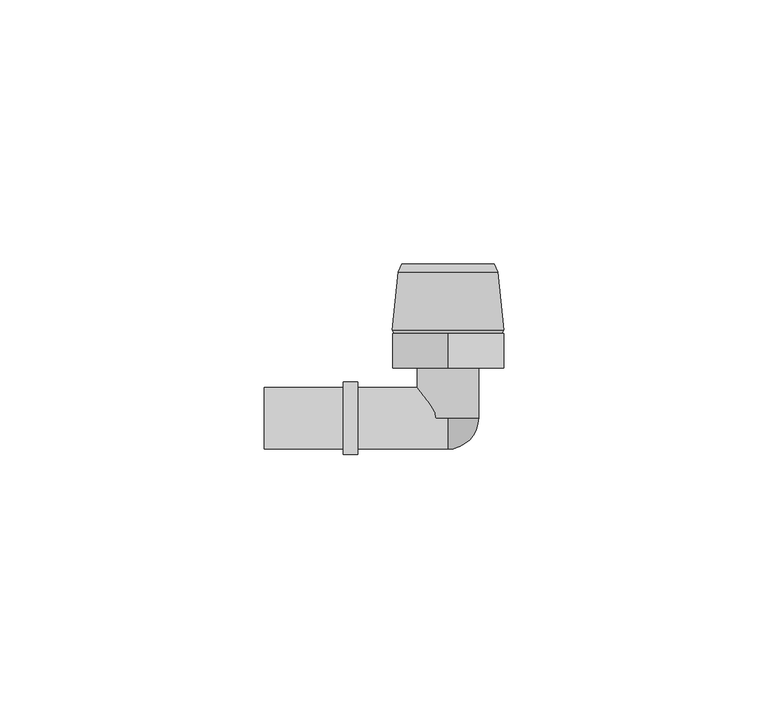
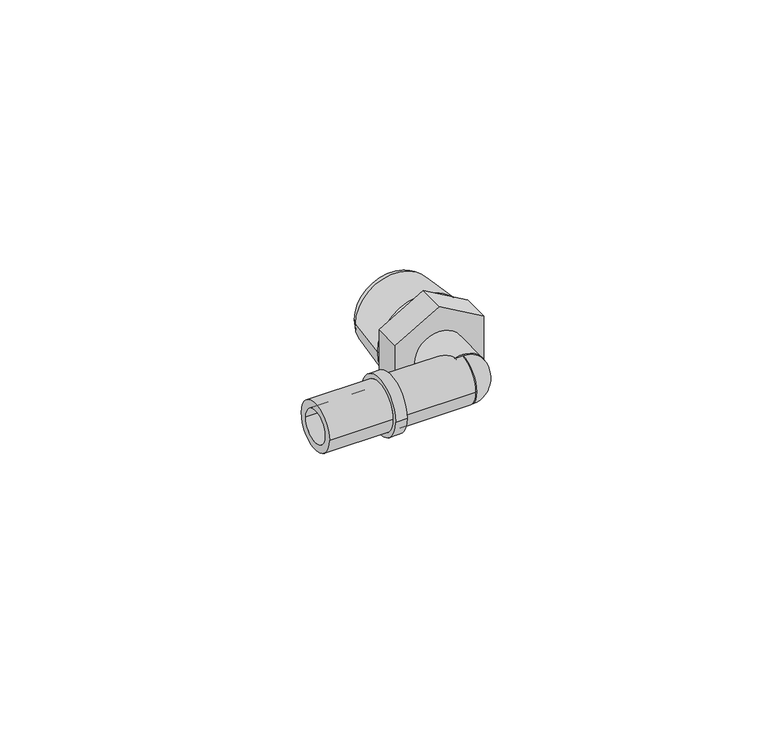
"""IFC4 building model written with IfcOpenShell, lengths in millimetres: pipe fitting geometry, FASTLOC_Elbow with male thread LX : FSL A internal PL."""

from ifc_helpers import new_model, si_unit, point, frame, origin, origin_2d, place, context, project, spatial, polyline, circle_curve, ellipse_curve, trimmed, segment, composite_curve, outline, extrude, source, transform, mapped, element, save
from ifc_brep_helpers import plane_surface, cylinder_surface, revolved_surface, advanced_brep


def pipe_fitting_13315931(model_context):
    return source(origin(), model_context, "Body", "SolidModel", [
        extrude(outline(composite_curve([segment(trimmed(circle_curve(origin_2d(), 5.8), [point((0.0, -5.8))], [point((0.0, 5.8))], False, "CARTESIAN"), True, "CONTINUOUS"), segment(trimmed(circle_curve(origin_2d(), 5.8), [point((0.0, 5.8))], [point((0.0, -5.8))], False, "CARTESIAN"), True, "CONTINUOUS")], self_intersect=False), holes=[composite_curve([segment(trimmed(circle_curve(origin_2d(), 3.95), [point((0.0, -3.95))], [point((0.0, 3.95))], True, "CARTESIAN"), True, "CONTINUOUS"), segment(trimmed(circle_curve(origin_2d(), 3.95), [point((0.0, 3.95))], [point((0.0, -3.95))], True, "CARTESIAN"), True, "CONTINUOUS")], self_intersect=False)]), frame((0.0, 0.0, 0.0), z_axis=(0.0, 1.0, 0.0), x_axis=(0.0, 0.0, 1.0)), (0.0, 0.0, 1.0), 9.5),
        extrude(outline(polyline([(-6.0621778, 10.5), (6.0621778, 10.5), (12.1243557, 0.0), (6.0621778, -10.5), (-6.0621778, -10.5), (-12.1243557, 0.0), (-6.0621778, 10.5)])), frame((0.0, 9.5, 0.0), z_axis=(0.0, 1.0, 0.0), x_axis=(0.0, 0.0, 1.0)), (0.0, 0.0, 1.0), 6.5),
        advanced_brep(
        [(0.0, -5.8, 0.0), (0.0, 0.0, 5.8), (0.0, 0.0, 3.75), (0.0, -3.75, 0.0), (0.0, 0.0, -3.75), (0.0, 0.0, -5.8)],
        [
            (0, 1, circle_curve(frame((0.0, 0.0, 0.0), z_axis=(-1.0, 0.0, 0.0), x_axis=(0.0, 0.0, 1.0)), 5.8)),
            (1, 2),
            (2, 3, circle_curve(frame((0.0, 0.0, 0.0), z_axis=(1.0, 0.0, 0.0), x_axis=(0.0, 0.0, 1.0)), 3.75)),
            (3, 0),
            (3, 4, circle_curve(frame((0.0, 0.0, 0.0), z_axis=(1.0, 0.0, 0.0), x_axis=(0.0, 0.0, -1.0)), 3.75)),
            (4, 5),
            (5, 0, circle_curve(frame((0.0, 0.0, 0.0), z_axis=(-1.0, 0.0, 0.0), x_axis=(0.0, 0.0, -1.0)), 5.8)),
            (5, 1, circle_curve(frame((0.0, 0.0, 0.0), z_axis=(0.0, -1.0, 0.0), x_axis=(0.0, 0.0, 1.0)), 5.8)),
            (4, 2, circle_curve(frame((0.0, 0.0, 0.0), z_axis=(0.0, -1.0, 0.0), x_axis=(0.0, 0.0, 1.0)), 3.75)),
        ],
        [
            plane_surface(frame((0.0, 0.0, 0.0), z_axis=(-1.0, 0.0, 0.0), x_axis=(0.0, 0.0, 1.0))),
            plane_surface(frame((0.0, 0.0, 0.0), z_axis=(-1.0, 0.0, 0.0), x_axis=(0.0, 0.0, -1.0))),
            revolved_surface(trimmed(ellipse_curve(frame((0.0, 0.0, 0.0), z_axis=(-1.0, 0.0, 0.0), x_axis=(0.0, 0.0, 1.0)), 5.8, 5.8), [point((0.0, -5.8, 0.0))], [point((0.0, 0.0, 5.8))], True, "CARTESIAN"), (0.0, 0.0, 0.0), (0.0, 1.0, 0.0)),
            plane_surface(frame((0.0, 0.0, 0.0), z_axis=(0.0, 1.0, 0.0), x_axis=(0.0, 0.0, 1.0))),
            revolved_surface(trimmed(ellipse_curve(frame((0.0, 0.0, 0.0), z_axis=(1.0, 0.0, 0.0), x_axis=(0.0, 0.0, 1.0)), 3.75, 3.75), [point((0.0, 0.0, 3.75))], [point((0.0, -3.75, 0.0))], True, "CARTESIAN"), (0.0, 0.0, 0.0), (0.0, 1.0, 0.0)),
        ],
        [
            (0, [[1, 2, 3, 4]]),
            (1, [[5, 6, 7, -4]]),
            (2, [[8, -1, -7]]),
            (3, [[9, -2, -8, -6]]),
            (4, [[-3, -9, -5]]),
        ],
    ),
        advanced_brep(
        [(9.4, 27.7000007, 0.0), (-9.4, 27.7000007, 0.0), (-8.75, 29.2, 0.0), (8.75, 29.2, 0.0), (10.55, 16.7406902, 0.0), (-10.55, 16.7406902, 0.0), (10.2, 16.0, 0.0), (-10.2, 16.0, 0.0), (7.0, 17.1032803, 0.0), (-7.0, 17.1032803, 0.0), (-5.8967197, 16.0, 0.0), (5.8967197, 16.0, 0.0), (7.0, 29.2, 0.0), (-7.0, 29.2, 0.0)],
        [
            (0, 1, circle_curve(frame((0.0, 27.7000007, 0.0), z_axis=(0.0, 1.0, 0.0), x_axis=(-1.0, 0.0, 0.0)), 9.4)),
            (1, 2),
            (2, 3, circle_curve(frame((0.0, 29.2, 0.0), z_axis=(0.0, -1.0, 0.0), x_axis=(-1.0, 0.0, 0.0)), 8.75)),
            (3, 0),
            (4, 5, circle_curve(frame((0.0, 16.7406902, 0.0), z_axis=(0.0, 1.0, 0.0), x_axis=(-1.0, 0.0, 0.0)), 10.55)),
            (5, 1),
            (0, 4),
            (6, 7, circle_curve(frame((0.0, 16.0, 0.0), z_axis=(0.0, 1.0, 0.0), x_axis=(-1.0, 0.0, 0.0)), 10.2)),
            (7, 5),
            (4, 6),
            (8, 9, circle_curve(frame((0.0, 17.1032803, 0.0), z_axis=(0.0, 1.0, 0.0), x_axis=(-1.0, 0.0, 0.0)), 7.0)),
            (9, 10),
            (10, 11, circle_curve(frame((0.0, 16.0, 0.0), z_axis=(0.0, -1.0, 0.0), x_axis=(-1.0, 0.0, 0.0)), 5.8967197)),
            (11, 8),
            (12, 13, circle_curve(frame((0.0, 29.2, 0.0), z_axis=(0.0, 1.0, 0.0), x_axis=(-1.0, 0.0, 0.0)), 7.0)),
            (13, 9),
            (8, 12),
            (2, 3, circle_curve(frame((0.0, 29.2, 0.0), z_axis=(0.0, 1.0, 0.0), x_axis=(1.0, 0.0, 0.0)), 8.75)),
            (12, 13, circle_curve(frame((0.0, 29.2, 0.0), z_axis=(0.0, -1.0, 0.0), x_axis=(1.0, 0.0, 0.0)), 7.0)),
            (1, 0, circle_curve(frame((0.0, 27.7000007, 0.0), z_axis=(0.0, 1.0, 0.0), x_axis=(1.0, 0.0, 0.0)), 9.4)),
            (5, 4, circle_curve(frame((0.0, 16.7406902, 0.0), z_axis=(0.0, 1.0, 0.0), x_axis=(1.0, 0.0, 0.0)), 10.55)),
            (7, 6, circle_curve(frame((0.0, 16.0, 0.0), z_axis=(0.0, 1.0, 0.0), x_axis=(1.0, 0.0, 0.0)), 10.2)),
            (10, 11, circle_curve(frame((0.0, 16.0, 0.0), z_axis=(0.0, 1.0, 0.0), x_axis=(1.0, 0.0, 0.0)), 5.8967197)),
            (9, 8, circle_curve(frame((0.0, 17.1032803, 0.0), z_axis=(0.0, 1.0, 0.0), x_axis=(1.0, 0.0, 0.0)), 7.0)),
        ],
        [
            revolved_surface(polyline([(-8.75, 29.2, 0.0), (-9.4, 27.7000007, 0.0)]), (0.0, 9.5, 0.0), (0.0, -1.0, 0.0)),
            revolved_surface(polyline([(-9.4, 27.7000007, 0.0), (-10.55, 16.7406902, 0.0)]), (0.0, 9.5, 0.0), (0.0, -1.0, 0.0)),
            revolved_surface(polyline([(-10.55, 16.7406902, 0.0), (-10.2, 16.0, 0.0)]), (0.0, 9.5, 0.0), (0.0, -1.0, 0.0)),
            revolved_surface(polyline([(-5.8967197, 16.0, 0.0), (-7.0, 17.1032803, 0.0)]), (0.0, 9.5, 0.0), (0.0, -1.0, 0.0)),
            revolved_surface(polyline([(-7.0, 17.1032803, 0.0), (-7.0, 29.2, 0.0)]), (0.0, 9.5, 0.0), (0.0, -1.0, 0.0)),
            plane_surface(frame((0.0, 29.2, 0.0), z_axis=(0.0, 1.0, 0.0), x_axis=(1.0, 0.0, 0.0))),
            revolved_surface(polyline([(8.75, 29.2, 0.0), (9.4, 27.7000007, 0.0)]), (0.0, 9.5, 0.0), (0.0, -1.0, 0.0)),
            revolved_surface(polyline([(9.4, 27.7000007, 0.0), (10.55, 16.7406902, 0.0)]), (0.0, 9.5, 0.0), (0.0, -1.0, 0.0)),
            revolved_surface(polyline([(10.55, 16.7406902, 0.0), (10.2, 16.0, 0.0)]), (0.0, 9.5, 0.0), (0.0, -1.0, 0.0)),
            plane_surface(frame((0.0, 16.0, 0.0), z_axis=(0.0, -1.0, 0.0), x_axis=(1.0, 0.0, 0.0))),
            revolved_surface(polyline([(5.8967197, 16.0, 0.0), (7.0, 17.1032803, 0.0)]), (0.0, 9.5, 0.0), (0.0, -1.0, 0.0)),
            revolved_surface(polyline([(7.0, 17.1032803, 0.0), (7.0, 29.2, 0.0)]), (0.0, 9.5, 0.0), (0.0, -1.0, 0.0)),
        ],
        [
            (0, [[1, 2, 3, 4]]),
            (1, [[5, 6, -1, 7]]),
            (2, [[8, 9, -5, 10]]),
            (3, [[11, 12, 13, 14]]),
            (4, [[15, 16, -11, 17]]),
            (5, [[18, -3], [19, -15]]),
            (6, [[20, -4, -18, -2]]),
            (7, [[21, -7, -20, -6]]),
            (8, [[22, -10, -21, -9]]),
            (9, [[-22, -8], [23, -13]]),
            (10, [[24, -14, -23, -12]]),
            (11, [[-19, -17, -24, -16]]),
        ],
    ),
        advanced_brep(
        [(-19.8, 5.8, 0.0), (-19.8, -5.8, 0.0), (-34.8, -5.8, 0.0), (-34.8, 5.8, 0.0), (-17.1, 6.9, 0.0), (-17.1, -6.9, 0.0), (-19.8, -6.9, 0.0), (-19.8, 6.9, 0.0), (0.0, 5.8, 0.0), (0.0, -5.8, 0.0), (-17.1, -5.8, 0.0), (-17.1, 5.8, 0.0), (-34.8, 3.95, 0.0), (-34.8, -3.95, 0.0), (0.0, -3.95, 0.0), (0.0, 3.95, 0.0)],
        [
            (0, 1, circle_curve(frame((-19.8, 0.0, 0.0), z_axis=(-1.0, 0.0, 0.0), x_axis=(0.0, -1.0, 0.0)), 5.8)),
            (1, 2),
            (2, 3, circle_curve(frame((-34.8, 0.0, 0.0), z_axis=(1.0, 0.0, 0.0), x_axis=(0.0, -1.0, 0.0)), 5.8)),
            (3, 0),
            (4, 5, circle_curve(frame((-17.1, 0.0, 0.0), z_axis=(-1.0, 0.0, 0.0), x_axis=(0.0, -1.0, 0.0)), 6.9)),
            (5, 6),
            (6, 7, circle_curve(frame((-19.8, 0.0, 0.0), z_axis=(1.0, 0.0, 0.0), x_axis=(0.0, -1.0, 0.0)), 6.9)),
            (7, 4),
            (8, 9, circle_curve(frame((0.0, 0.0, 0.0), z_axis=(-1.0, 0.0, 0.0), x_axis=(0.0, -1.0, 0.0)), 5.8)),
            (9, 10),
            (10, 11, circle_curve(frame((-17.1, 0.0, 0.0), z_axis=(1.0, 0.0, 0.0), x_axis=(0.0, -1.0, 0.0)), 5.8)),
            (11, 8),
            (12, 13, circle_curve(frame((-34.8, 0.0, 0.0), z_axis=(-1.0, 0.0, 0.0), x_axis=(0.0, -1.0, 0.0)), 3.95)),
            (13, 14),
            (14, 15, circle_curve(frame((0.0, 0.0, 0.0), z_axis=(1.0, 0.0, 0.0), x_axis=(0.0, -1.0, 0.0)), 3.95)),
            (15, 12),
            (2, 3, circle_curve(frame((-34.8, 0.0, 0.0), z_axis=(-1.0, 0.0, 0.0), x_axis=(0.0, 1.0, 0.0)), 5.8)),
            (12, 13, circle_curve(frame((-34.8, 0.0, 0.0), z_axis=(1.0, 0.0, 0.0), x_axis=(0.0, 1.0, 0.0)), 3.95)),
            (1, 0, circle_curve(frame((-19.8, 0.0, 0.0), z_axis=(-1.0, 0.0, 0.0), x_axis=(0.0, 1.0, 0.0)), 5.8)),
            (6, 7, circle_curve(frame((-19.8, 0.0, 0.0), z_axis=(-1.0, 0.0, 0.0), x_axis=(0.0, 1.0, 0.0)), 6.9)),
            (5, 4, circle_curve(frame((-17.1, 0.0, 0.0), z_axis=(-1.0, 0.0, 0.0), x_axis=(0.0, 1.0, 0.0)), 6.9)),
            (10, 11, circle_curve(frame((-17.1, 0.0, 0.0), z_axis=(-1.0, 0.0, 0.0), x_axis=(0.0, 1.0, 0.0)), 5.8)),
            (9, 8, circle_curve(frame((0.0, 0.0, 0.0), z_axis=(-1.0, 0.0, 0.0), x_axis=(0.0, 1.0, 0.0)), 5.8)),
            (14, 15, circle_curve(frame((0.0, 0.0, 0.0), z_axis=(-1.0, 0.0, 0.0), x_axis=(0.0, 1.0, 0.0)), 3.95)),
        ],
        [
            cylinder_surface(frame((0.0, 0.0, 0.0), z_axis=(1.0, 0.0, 0.0), x_axis=(0.0, -1.0, 0.0)), 5.8),
            cylinder_surface(frame((0.0, 0.0, 0.0), z_axis=(1.0, 0.0, 0.0), x_axis=(0.0, -1.0, 0.0)), 6.9),
            revolved_surface(polyline([(0.0, -3.95, 0.0), (-34.8, -3.95, 0.0)]), (0.0, 0.0, 0.0), (1.0, 0.0, 0.0)),
            plane_surface(frame((-34.8, 0.0, 0.0), z_axis=(-1.0, 0.0, 0.0), x_axis=(0.0, 1.0, 0.0))),
            cylinder_surface(frame((0.0, 0.0, 0.0), z_axis=(1.0, 0.0, 0.0), x_axis=(0.0, 1.0, 0.0)), 5.8),
            plane_surface(frame((-19.8, 0.0, 0.0), z_axis=(-1.0, 0.0, 0.0), x_axis=(0.0, 1.0, 0.0))),
            cylinder_surface(frame((0.0, 0.0, 0.0), z_axis=(1.0, 0.0, 0.0), x_axis=(0.0, 1.0, 0.0)), 6.9),
            plane_surface(frame((-17.1, 0.0, 0.0), z_axis=(1.0, 0.0, 0.0), x_axis=(0.0, 1.0, 0.0))),
            plane_surface(frame((0.0, 0.0, 0.0), z_axis=(1.0, 0.0, 0.0), x_axis=(0.0, 1.0, 0.0))),
            revolved_surface(polyline([(0.0, 3.95, 0.0), (-34.8, 3.95, 0.0)]), (0.0, 0.0, 0.0), (1.0, 0.0, 0.0)),
        ],
        [
            (0, [[1, 2, 3, 4]]),
            (1, [[5, 6, 7, 8]]),
            (0, [[9, 10, 11, 12]]),
            (2, [[13, 14, 15, 16]]),
            (3, [[17, -3], [18, -13]]),
            (4, [[19, -4, -17, -2]]),
            (5, [[20, -7], [-19, -1]]),
            (6, [[21, -8, -20, -6]]),
            (7, [[-21, -5], [22, -11]]),
            (4, [[23, -12, -22, -10]]),
            (8, [[-23, -9], [24, -15]]),
            (9, [[-18, -16, -24, -14]]),
        ],
    ),
    ])


if __name__ == "__main__":
    model = new_model("IFC4")
    model_context = context("Model", 3, world=origin())
    ifc_project = project(units=[si_unit("LENGTHUNIT", "METRE", prefix="MILLI")], contexts=[model_context])
    site = spatial("IfcSite", under=ifc_project)
    building = spatial("IfcBuilding", under=site)
    placement = place(None, origin())
    pipe_fitting_shape = pipe_fitting_13315931(model_context)
    element("IfcPipeFitting", 1, ObjectType="FASTLOC_Elbow with male thread LX : FSL A internal PL", at=placement, inside=building, context=model_context, shape_type="MappedRepresentation", body=[
        mapped(pipe_fitting_shape, transform((0.0, 0.0, 0.0), x_axis=(1.0, 0.0, 0.0), y_axis=(0.0, 1.0, 0.0), z_axis=(0.0, 0.0, 1.0))),
    ])
    save(model, "model.ifc")
